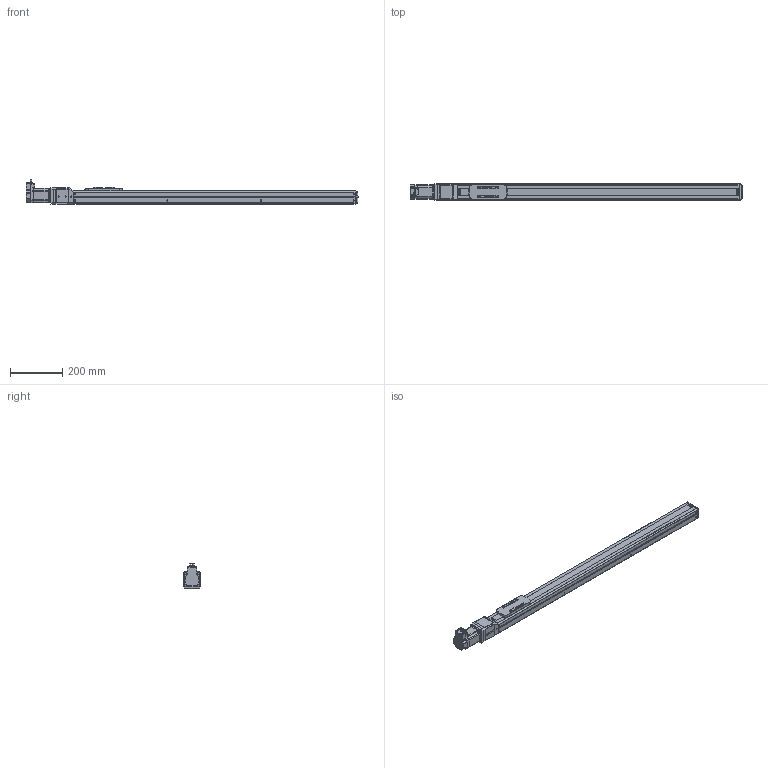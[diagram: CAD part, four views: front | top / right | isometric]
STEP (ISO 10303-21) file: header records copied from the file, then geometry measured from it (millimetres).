
FILE_DESCRIPTION(('FreeCAD Model'),'2;1');
FILE_NAME('Open CASCADE Shape Model','2023-08-02T11:06:46',('Author'),( ''),'Open CASCADE STEP processor 7.5','FreeCAD','Unknown');
FILE_SCHEMA(('AUTOMOTIVE_DESIGN { 1 0 10303 214 1 1 1 1 }'));
Length unit declared in the file: millimetre
Products named in the file (19): RSA1211; 1; 6; 5; 12; 2; 3; 9; 4; 11; 7; 13; 10; 8; Shapes; KSF6-20-0850-0-A0(0); KSF6---(Cover); KSF6-10-0850---(slider); KSF6-20-0850-A0 (0850A0No0)---(body)
Assembly tree (18 placements, depth 3):
  RSA1211
    1
    6
    5
    12
    2
    3
    9
    4
    11
    7
    13
    10
    8
    Shapes
    KSF6-20-0850-0-A0(0)
      KSF6---(Cover)
      KSF6-10-0850---(slider)
      KSF6-20-0850-A0 (0850A0No0)---(body)
Bounding box: 1273 x 66.4 x 93.17 mm (x, y, z)
Volume: 3971328.4 mm3; surface area: 419728.1 mm2
Topology: 17 solids, 17 shells, 1595 faces, 4251 edges, 2791 vertices
Faces by surface type: plane 1143, cylinder 314, cone 75, bspline 32, torus 27, revolution 4
Full cylindrical faces by diameter (mm): 2.113 x8, 2.6 x4, 3 x2, 3.242 x5, 4.134 x4, 4.5 x2, 5 x1, 5.5 x18, 6.5 x4, 9 x1, 9.5 x12, 12 x1, 15.5 x1, 17 x1, 44 x1, 50 x1
Entity records: 112156 total; most frequent: CARTESIAN_POINT 26418, DIRECTION 15948, LINE 10821, VECTOR 10821, ORIENTED_EDGE 8462, PCURVE 8462, DEFINITIONAL_REPRESENTATION 8462, EDGE_CURVE 4231
